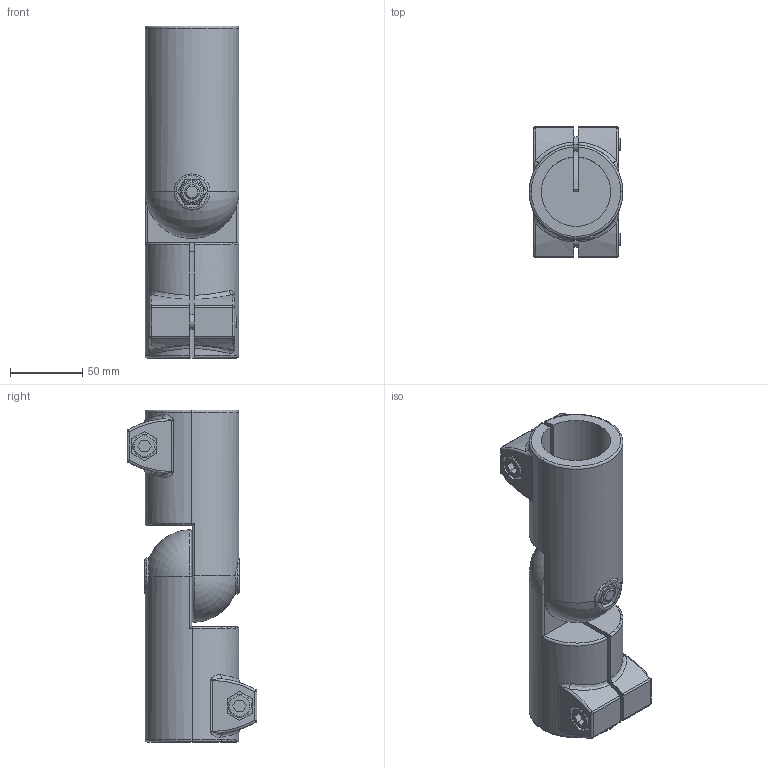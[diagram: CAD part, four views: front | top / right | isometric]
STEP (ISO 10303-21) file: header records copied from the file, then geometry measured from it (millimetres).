
FILE_DESCRIPTION (( 'STEP AP214' ), '1' );
FILE_NAME ('286-B48-B50-T-2-BL.step', '2021-12-02T12:14:08', ( '' ), ( '' ), 'SwSTEP 2.0', 'SolidWorks 2019', '' );
FILE_SCHEMA (( 'AUTOMOTIVE_DESIGN' ));
Length unit declared in the file: millimetre
Products named in the file (3): WB276_1^WB286_B50-AV-2-BL; WB276^WB286_B48-IV-2-BL; 286-B48-B50-T-2-BL
Assembly tree (2 placements, depth 2):
  286-B48-B50-T-2-BL
    WB276^WB286_B48-IV-2-BL
    WB276_1^WB286_B50-AV-2-BL
Bounding box: 65 x 90 x 230 mm (x, y, z)
Volume: 481029.3 mm3; surface area: 111930.9 mm2
Topology: 2 solids, 2 shells, 496 faces, 1256 edges, 782 vertices
Faces by surface type: plane 290, cylinder 108, torus 46, cone 24, bspline 20, sphere 8
Entity records: 19024 total; most frequent: CARTESIAN_POINT 6337, ORIENTED_EDGE 2496, DIRECTION 2358, EDGE_CURVE 1248, AXIS2_PLACEMENT_3D 929, VERTEX_POINT 782, EDGE_LOOP 528, VECTOR 500
